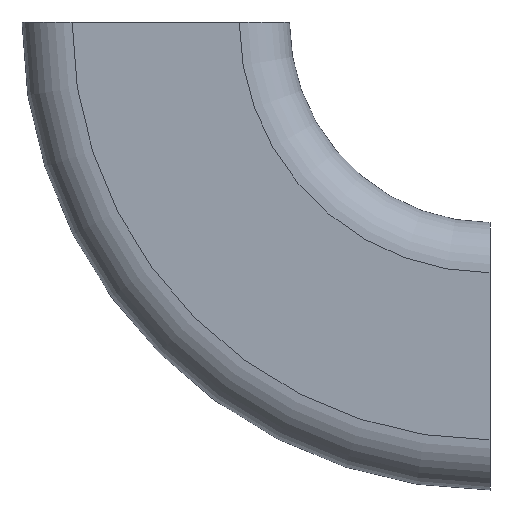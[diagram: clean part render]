
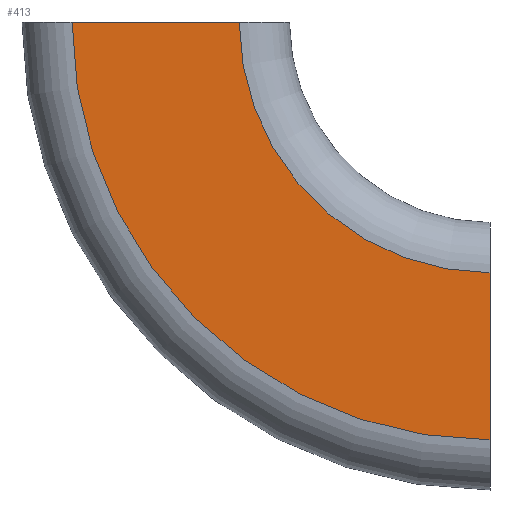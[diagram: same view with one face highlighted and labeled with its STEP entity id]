
A CAD part, left-side view. The second image highlights one B-rep face of the part: STEP entity #413.
In plain terms, the highlighted planar face has unit normal (-1, 0, 0).
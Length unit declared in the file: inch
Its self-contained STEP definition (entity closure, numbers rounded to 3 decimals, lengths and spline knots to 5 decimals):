
#345=CARTESIAN_POINT('',(-1.,-2.5,-3.125));
#346=VERTEX_POINT('',#345);
#354=CARTESIAN_POINT('',(-1.,0.625,0.0));
#355=VERTEX_POINT('',#354);
#356=CARTESIAN_POINT('',(-1.,-2.5,0.0));
#357=DIRECTION('',(-1.0,0.0,0.0));
#358=DIRECTION('',(0.0,1.0,0.0));
#359=AXIS2_PLACEMENT_3D('',#356,#357,#358);
#360=CIRCLE('',#359,3.125);
#361=EDGE_CURVE('',#355,#346,#360,.T.);
#382=CARTESIAN_POINT('',(-1.0,0.,0.0));
#383=DIRECTION('',(-1.0,0.0,0.0));
#384=DIRECTION('',(0.0,0.0,1.0));
#385=AXIS2_PLACEMENT_3D('',#382,#383,#384);
#386=PLANE('',#385);
#387=CARTESIAN_POINT('',(-1.,-2.5,-1.875));
#388=VERTEX_POINT('',#387);
#389=CARTESIAN_POINT('',(-1.,-2.5,-3.125));
#390=DIRECTION('',(0.0,0.0,1.0));
#391=VECTOR('',#390,1.25);
#392=LINE('',#389,#391);
#393=EDGE_CURVE('',#346,#388,#392,.T.);
#394=ORIENTED_EDGE('',*,*,#393,.T.);
#395=CARTESIAN_POINT('',(-1.0,-0.625,0.0));
#396=VERTEX_POINT('',#395);
#397=CARTESIAN_POINT('',(-1.,-2.5,0.0));
#398=DIRECTION('',(-1.0,0.0,0.0));
#399=DIRECTION('',(0.0,1.0,0.0));
#400=AXIS2_PLACEMENT_3D('',#397,#398,#399);
#401=CIRCLE('',#400,1.875);
#402=EDGE_CURVE('',#396,#388,#401,.T.);
#403=ORIENTED_EDGE('',*,*,#402,.F.);
#404=CARTESIAN_POINT('',(-1.,0.625,0.0));
#405=DIRECTION('',(0.0,-1.0,0.0));
#406=VECTOR('',#405,1.25);
#407=LINE('',#404,#406);
#408=EDGE_CURVE('',#355,#396,#407,.T.);
#409=ORIENTED_EDGE('',*,*,#408,.F.);
#410=ORIENTED_EDGE('',*,*,#361,.T.);
#411=EDGE_LOOP('',(#394,#403,#409,#410));
#412=FACE_OUTER_BOUND('',#411,.T.);
#413=ADVANCED_FACE('',(#412),#386,.T.);
